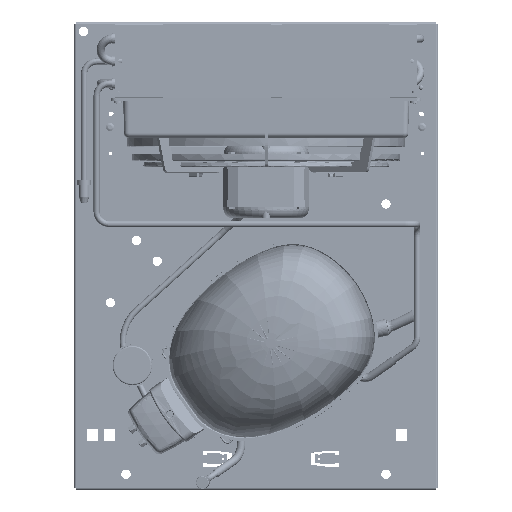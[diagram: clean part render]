
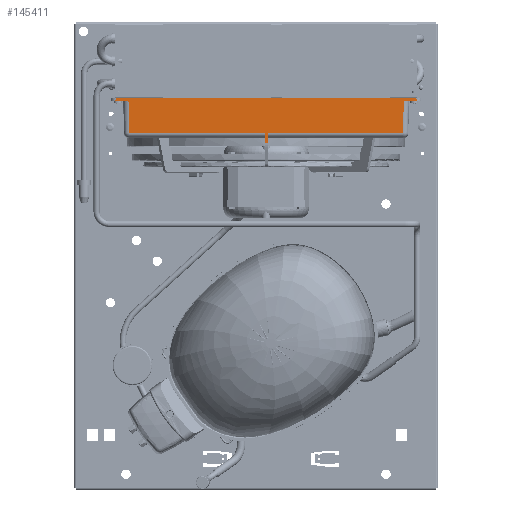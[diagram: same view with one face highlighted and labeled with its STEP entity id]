
A CAD part, top view. The second image highlights one B-rep face of the part: STEP entity #145411.
In plain terms, the highlighted planar face has unit normal (0, -0.018, 1) as drawn and (0, 1, 0.017) by its records, which use the part's own axes.
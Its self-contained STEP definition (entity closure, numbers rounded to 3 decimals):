
#3510=B_SPLINE_CURVE_WITH_KNOTS('',3,(#276131,#276132,#276133,#276134,#276135,
#276136,#276137,#276138,#276139,#276140),.UNSPECIFIED.,.F.,.F.,(4,1,1,1,
1,1,1,4),(0.,0.001,0.001,
0.001,0.002,0.002,0.002,
0.002),.UNSPECIFIED.);
#3511=B_SPLINE_CURVE_WITH_KNOTS('',3,(#276282,#276283,#276284,#276285,#276286,
#276287,#276288,#276289,#276290,#276291),.UNSPECIFIED.,.F.,.F.,(4,1,1,1,
1,1,1,4),(0.,0.001,0.001,
0.001,0.002,0.002,0.002,
0.002),.UNSPECIFIED.);
#53695=ORIENTED_EDGE('',*,*,#81789,.F.);
#53696=ORIENTED_EDGE('',*,*,#81790,.T.);
#53697=ORIENTED_EDGE('',*,*,#81791,.T.);
#53698=ORIENTED_EDGE('',*,*,#80157,.F.);
#53699=ORIENTED_EDGE('',*,*,#81703,.T.);
#53700=ORIENTED_EDGE('',*,*,#80108,.F.);
#53701=ORIENTED_EDGE('',*,*,#81774,.F.);
#53702=ORIENTED_EDGE('',*,*,#80132,.T.);
#53703=ORIENTED_EDGE('',*,*,#81792,.T.);
#53704=ORIENTED_EDGE('',*,*,#81793,.T.);
#53705=ORIENTED_EDGE('',*,*,#81794,.T.);
#53706=ORIENTED_EDGE('',*,*,#81795,.F.);
#80108=EDGE_CURVE('',#95900,#95901,#106615,.T.);
#80132=EDGE_CURVE('',#95924,#95925,#106635,.T.);
#80157=EDGE_CURVE('',#95949,#95950,#106655,.T.);
#81703=EDGE_CURVE('',#95949,#95901,#3510,.T.);
#81774=EDGE_CURVE('',#95924,#95900,#3511,.T.);
#81789=EDGE_CURVE('',#97012,#97013,#107067,.T.);
#81790=EDGE_CURVE('',#97012,#97014,#107068,.F.);
#81791=EDGE_CURVE('',#97014,#95950,#107069,.F.);
#81792=EDGE_CURVE('',#95925,#97015,#107070,.T.);
#81793=EDGE_CURVE('',#97015,#97016,#107071,.F.);
#81794=EDGE_CURVE('',#97016,#97017,#107072,.T.);
#81795=EDGE_CURVE('',#97013,#97017,#107073,.T.);
#95900=VERTEX_POINT('',#239466);
#95901=VERTEX_POINT('',#239468);
#95924=VERTEX_POINT('',#239516);
#95925=VERTEX_POINT('',#239517);
#95949=VERTEX_POINT('',#239566);
#95950=VERTEX_POINT('',#239568);
#97012=VERTEX_POINT('',#276323);
#97013=VERTEX_POINT('',#276324);
#97014=VERTEX_POINT('',#276326);
#97015=VERTEX_POINT('',#276329);
#97016=VERTEX_POINT('',#276331);
#97017=VERTEX_POINT('',#276333);
#106615=LINE('',#239467,#114481);
#106635=LINE('',#239515,#114501);
#106655=LINE('',#239567,#114521);
#107067=LINE('',#276322,#114933);
#107068=LINE('',#276325,#114934);
#107069=LINE('',#276327,#114935);
#107070=LINE('',#276328,#114936);
#107071=LINE('',#276330,#114937);
#107072=LINE('',#276332,#114938);
#107073=LINE('',#276334,#114939);
#114481=VECTOR('',#172128,1000.);
#114501=VECTOR('',#172158,1000.);
#114521=VECTOR('',#172190,1000.);
#114933=VECTOR('',#173938,1000.);
#114934=VECTOR('',#173939,1000.);
#114935=VECTOR('',#173940,1000.);
#114936=VECTOR('',#173941,1000.);
#114937=VECTOR('',#173942,1000.);
#114938=VECTOR('',#173943,1000.);
#114939=VECTOR('',#173944,1000.);
#123448=EDGE_LOOP('',(#53695,#53696,#53697,#53698,#53699,#53700,#53701,
#53702,#53703,#53704,#53705,#53706));
#132765=FACE_BOUND('',#123448,.T.);
#138897=PLANE('',#155072);
#145411=ADVANCED_FACE('',(#132765),#138897,.F.);
#155072=AXIS2_PLACEMENT_3D('',#276321,#173936,#173937);
#172128=DIRECTION('',(1.,0.,0.));
#172158=DIRECTION('',(1.,0.,0.));
#172190=DIRECTION('',(-1.,0.,0.));
#173936=DIRECTION('',(0.,-1.,-0.017));
#173937=DIRECTION('',(0.,0.017,-1.));
#173938=DIRECTION('',(0.,-0.017,1.));
#173939=DIRECTION('',(-1.,0.,0.));
#173940=DIRECTION('',(-0.017,-0.017,1.));
#173941=DIRECTION('',(0.017,-0.017,1.));
#173942=DIRECTION('',(-1.,0.,0.));
#173943=DIRECTION('',(0.,-0.017,1.));
#173944=DIRECTION('',(-1.,0.,0.));
#239466=CARTESIAN_POINT('',(-144.375,138.363,0.));
#239467=CARTESIAN_POINT('',(-144.375,138.363,0.));
#239468=CARTESIAN_POINT('',(144.375,138.363,0.));
#239515=CARTESIAN_POINT('',(140.869,138.328,2.));
#239516=CARTESIAN_POINT('',(-144.965,138.328,2.));
#239517=CARTESIAN_POINT('',(-132.329,138.328,2.));
#239566=CARTESIAN_POINT('',(144.965,138.328,2.));
#239567=CARTESIAN_POINT('',(140.869,138.328,2.));
#239568=CARTESIAN_POINT('',(132.329,138.328,2.));
#276131=CARTESIAN_POINT('',(144.965,138.328,2.));
#276132=CARTESIAN_POINT('',(144.939,138.331,1.824));
#276133=CARTESIAN_POINT('',(144.884,138.338,1.472));
#276134=CARTESIAN_POINT('',(144.802,138.345,1.035));
#276135=CARTESIAN_POINT('',(144.723,138.351,0.688));
#276136=CARTESIAN_POINT('',(144.653,138.356,0.431));
#276137=CARTESIAN_POINT('',(144.577,138.359,0.22));
#276138=CARTESIAN_POINT('',(144.492,138.362,0.066));
#276139=CARTESIAN_POINT('',(144.42,138.363,0.));
#276140=CARTESIAN_POINT('',(144.375,138.363,0.));
#276282=CARTESIAN_POINT('',(-144.965,138.328,2.));
#276283=CARTESIAN_POINT('',(-144.939,138.331,1.824));
#276284=CARTESIAN_POINT('',(-144.884,138.338,1.472));
#276285=CARTESIAN_POINT('',(-144.802,138.345,1.035));
#276286=CARTESIAN_POINT('',(-144.723,138.351,0.688));
#276287=CARTESIAN_POINT('',(-144.653,138.356,0.431));
#276288=CARTESIAN_POINT('',(-144.577,138.359,0.22));
#276289=CARTESIAN_POINT('',(-144.492,138.362,0.066));
#276290=CARTESIAN_POINT('',(-144.42,138.363,0.));
#276291=CARTESIAN_POINT('',(-144.375,138.363,0.));
#276321=CARTESIAN_POINT('',(432.954,137.811,31.613));
#276322=CARTESIAN_POINT('',(1.5,137.617,42.731));
#276323=CARTESIAN_POINT('',(1.5,137.786,33.087));
#276324=CARTESIAN_POINT('',(1.5,137.617,42.731));
#276325=CARTESIAN_POINT('',(432.954,137.786,33.087));
#276326=CARTESIAN_POINT('',(131.787,137.786,33.087));
#276327=CARTESIAN_POINT('',(132.331,138.33,1.913));
#276328=CARTESIAN_POINT('',(-131.702,137.702,37.913));
#276329=CARTESIAN_POINT('',(-131.787,137.786,33.087));
#276330=CARTESIAN_POINT('',(432.954,137.786,33.087));
#276331=CARTESIAN_POINT('',(-1.5,137.786,33.087));
#276332=CARTESIAN_POINT('',(-1.5,137.617,42.731));
#276333=CARTESIAN_POINT('',(-1.5,137.617,42.731));
#276334=CARTESIAN_POINT('',(1.5,137.617,42.731));
